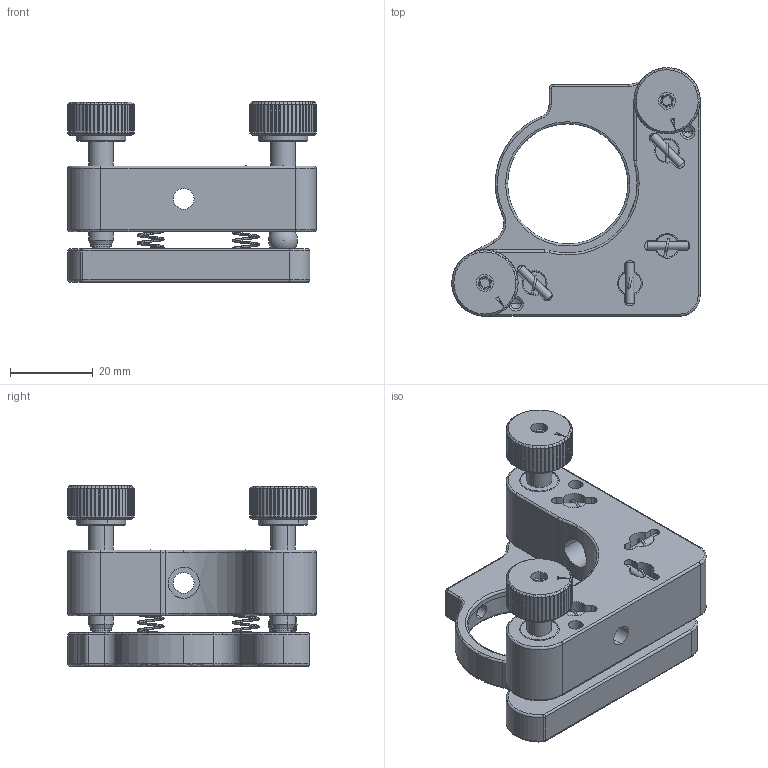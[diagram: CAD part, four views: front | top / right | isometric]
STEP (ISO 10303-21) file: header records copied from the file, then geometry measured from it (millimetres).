
FILE_DESCRIPTION (( 'STEP AP203' ), '1' );
FILE_NAME ('M-TMSO-1.2R-HOX.STEP', '2020-08-26T07:24:42', ( '匠星' ), ( '' ), 'SwSTEP 2.0', 'SolidWorks 2019', '' );
FILE_SCHEMA (( 'CONFIG_CONTROL_DESIGN' ));
Length unit declared in the file: millimetre
Products named in the file (1): M-TMSO-1.2R-HOX
Bounding box: 60 x 60 x 43.5 mm (x, y, z)
Surface area: 19297.3 mm2 (no closed solid volume)
Topology: 0 solids, 17 shells, 873 faces, 2273 edges, 1453 vertices
Faces by surface type: cylinder 395, plane 338, torus 70, cone 36, sphere 22, bspline 12
Entity records: 36371 total; most frequent: CARTESIAN_POINT 15767, ORIENTED_EDGE 4476, DIRECTION 4166, EDGE_CURVE 2244, AXIS2_PLACEMENT_3D 1679, VERTEX_POINT 1446, EDGE_LOOP 936, ADVANCED_FACE 873
